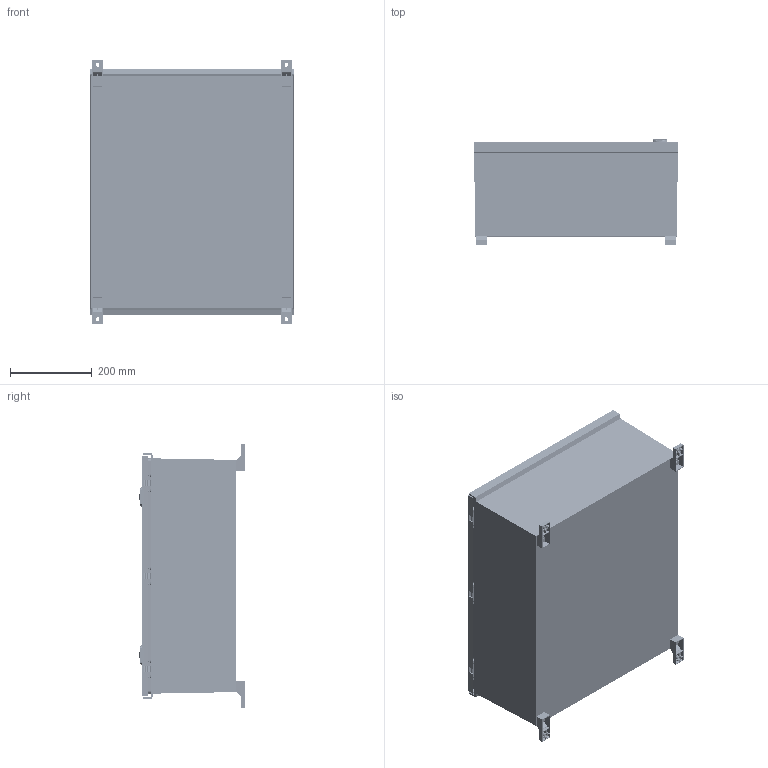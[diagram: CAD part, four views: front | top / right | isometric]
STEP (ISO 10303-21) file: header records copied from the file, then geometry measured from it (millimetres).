
FILE_DESCRIPTION (( 'STEP AP203' ), '1' );
FILE_NAME ('CN5N0659 simple.STEP', '2026-07-14T10:35:05', ( '' ), ( '' ), 'SwSTEP 2.0', 'SolidWorks 2022', '' );
FILE_SCHEMA (( 'CONFIG_CONTROL_DESIGN' ));
Products named in the file (1): CN5N0659 simple
Bounding box: 500 x 257.44 x 645.7 mm (x, y, z)
Volume: 3684050.3 mm3; surface area: 2454413.8 mm2
Topology: 62 solids, 66 shells, 12768 faces, 31401 edges, 19654 vertices
Faces by surface type: plane 7274, cylinder 2774, bspline 1066, cone 1022, torus 389, sphere 243
Entity records: 507061 total; most frequent: CARTESIAN_POINT 224375, ORIENTED_EDGE 62162, DIRECTION 50892, EDGE_CURVE 31081, VERTEX_POINT 19644, LINE 17842, VECTOR 17842, AXIS2_PLACEMENT_3D 16525
